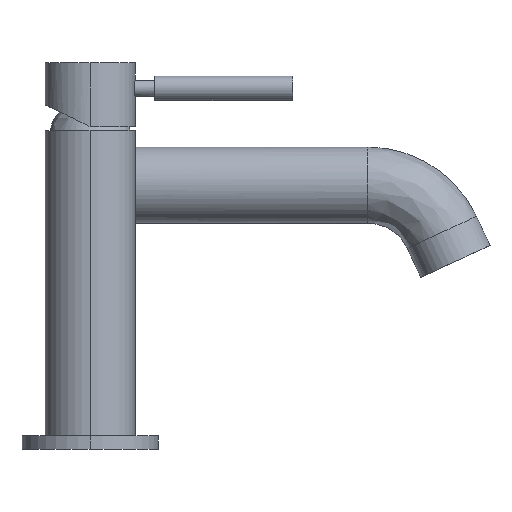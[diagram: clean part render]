
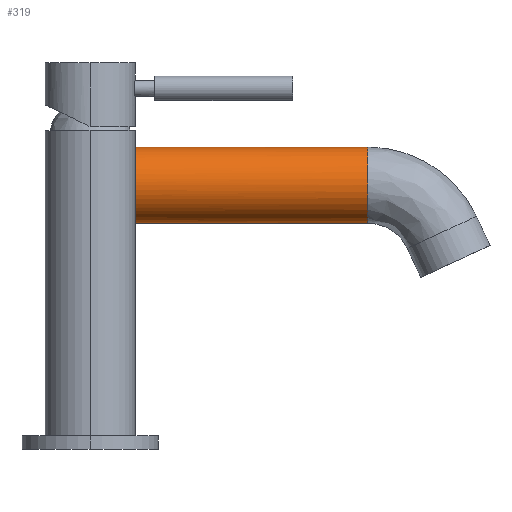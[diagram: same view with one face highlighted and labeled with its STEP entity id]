
A CAD part, left-side view. The second image highlights one B-rep face of the part: STEP entity #319.
In plain terms, the highlighted cylindrical face has radius 14 mm (diameter 28 mm), a partial arc.
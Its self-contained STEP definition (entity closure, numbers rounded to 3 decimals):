
#249 = VERTEX_POINT('',#250);
#250 = CARTESIAN_POINT('',(0.,-101.967,
    111.));
#251 = VERTEX_POINT('',#252);
#252 = CARTESIAN_POINT('',(0.,-101.967,
    83.));
#259 = EDGE_CURVE('',#251,#260,#262,.T.);
#260 = VERTEX_POINT('',#261);
#261 = CARTESIAN_POINT('',(0.,-5.385,
    83.));
#262 = LINE('',#263,#264);
#263 = CARTESIAN_POINT('',(0.,-5.385,
    83.));
#264 = VECTOR('',#265,1.);
#265 = DIRECTION('',(0.,1.,0.));
#289 = VERTEX_POINT('',#290);
#290 = CARTESIAN_POINT('',(0.,-5.385,
    111.));
#309 = EDGE_CURVE('',#289,#249,#310,.T.);
#310 = LINE('',#311,#312);
#311 = CARTESIAN_POINT('',(0.,-5.385,
    111.));
#312 = VECTOR('',#313,1.);
#313 = DIRECTION('',(0.,-1.,0.));
#319 = ADVANCED_FACE('',(#320),#371,.T.);
#320 = FACE_BOUND('',#321,.T.);
#321 = EDGE_LOOP('',(#322,#329,#330,#351,#370));
#322 = ORIENTED_EDGE('',*,*,#323,.T.);
#323 = EDGE_CURVE('',#251,#249,#324,.T.);
#324 = CIRCLE('',#325,14.);
#325 = AXIS2_PLACEMENT_3D('',#326,#327,#328);
#326 = CARTESIAN_POINT('',(0.,-101.967,
    97.));
#327 = DIRECTION('',(0.,1.,0.));
#328 = DIRECTION('',(0.,0.,-1.));
#329 = ORIENTED_EDGE('',*,*,#309,.F.);
#330 = ORIENTED_EDGE('',*,*,#331,.T.);
#331 = EDGE_CURVE('',#289,#332,#334,.T.);
#332 = VERTEX_POINT('',#333);
#333 = CARTESIAN_POINT('',(-14.,-15.,
    97.));
#334 = B_SPLINE_CURVE_WITH_KNOTS('',3,(#335,#336,#337,#338,#339,#340,
    #341,#342,#343,#344,#345,#346,#347,#348,#349,#350),.UNSPECIFIED.,.F.
  ,.F.,(4,2,2,2,2,2,2,4),(-9.63,-9.313,-8.996
    ,-8.68,-8.363,-7.793,-7.507,
    -7.222),.UNSPECIFIED.);
#335 = CARTESIAN_POINT('',(0.,-5.385,
    111.));
#336 = CARTESIAN_POINT('',(-1.056,-5.385,
    111.));
#337 = CARTESIAN_POINT('',(-1.992,-5.687,
    110.888));
#338 = CARTESIAN_POINT('',(-3.779,-6.531,
    110.511));
#339 = CARTESIAN_POINT('',(-4.627,-7.077,
    110.243));
#340 = CARTESIAN_POINT('',(-6.276,-8.25,
    109.546));
#341 = CARTESIAN_POINT('',(-7.07,-8.877,
    109.117));
#342 = CARTESIAN_POINT('',(-8.565,-10.108,
    108.111));
#343 = CARTESIAN_POINT('',(-9.265,-10.712,
    107.534));
#344 = CARTESIAN_POINT('',(-11.041,-12.273,
    105.758));
#345 = CARTESIAN_POINT('',(-12.109,-13.25,
    104.269));
#346 = CARTESIAN_POINT('',(-13.221,-14.275,
    101.7));
#347 = CARTESIAN_POINT('',(-13.512,-14.545,
    100.788));
#348 = CARTESIAN_POINT('',(-13.902,-14.908,
    98.913));
#349 = CARTESIAN_POINT('',(-14.,-15.,
    97.951));
#350 = CARTESIAN_POINT('',(-14.,-15.,
    97.));
#351 = ORIENTED_EDGE('',*,*,#352,.T.);
#352 = EDGE_CURVE('',#332,#260,#353,.T.);
#353 = B_SPLINE_CURVE_WITH_KNOTS('',3,(#354,#355,#356,#357,#358,#359,
    #360,#361,#362,#363,#364,#365,#366,#367,#368,#369),.UNSPECIFIED.,.F.
  ,.F.,(4,2,2,2,2,2,2,4),(-7.222,-6.937,-6.652,
    -6.082,-5.765,-5.448,-5.132,
    -4.815),.UNSPECIFIED.);
#354 = CARTESIAN_POINT('',(-14.,-15.,
    97.));
#355 = CARTESIAN_POINT('',(-14.,-15.,
    96.049));
#356 = CARTESIAN_POINT('',(-13.902,-14.908,
    95.087));
#357 = CARTESIAN_POINT('',(-13.512,-14.545,
    93.212));
#358 = CARTESIAN_POINT('',(-13.221,-14.275,
    92.3));
#359 = CARTESIAN_POINT('',(-12.109,-13.25,
    89.731));
#360 = CARTESIAN_POINT('',(-11.041,-12.273,
    88.242));
#361 = CARTESIAN_POINT('',(-9.265,-10.712,
    86.466));
#362 = CARTESIAN_POINT('',(-8.565,-10.108,
    85.889));
#363 = CARTESIAN_POINT('',(-7.07,-8.877,
    84.883));
#364 = CARTESIAN_POINT('',(-6.276,-8.25,84.454
    ));
#365 = CARTESIAN_POINT('',(-4.627,-7.077,
    83.757));
#366 = CARTESIAN_POINT('',(-3.779,-6.531,
    83.489));
#367 = CARTESIAN_POINT('',(-1.992,-5.687,
    83.112));
#368 = CARTESIAN_POINT('',(-1.056,-5.385,
    83.));
#369 = CARTESIAN_POINT('',(0.,-5.385,
    83.));
#370 = ORIENTED_EDGE('',*,*,#259,.F.);
#371 = CYLINDRICAL_SURFACE('',#372,14.);
#372 = AXIS2_PLACEMENT_3D('',#373,#374,#375);
#373 = CARTESIAN_POINT('',(0.,0.,
    97.));
#374 = DIRECTION('',(0.,1.,0.));
#375 = DIRECTION('',(0.,0.,-1.));
